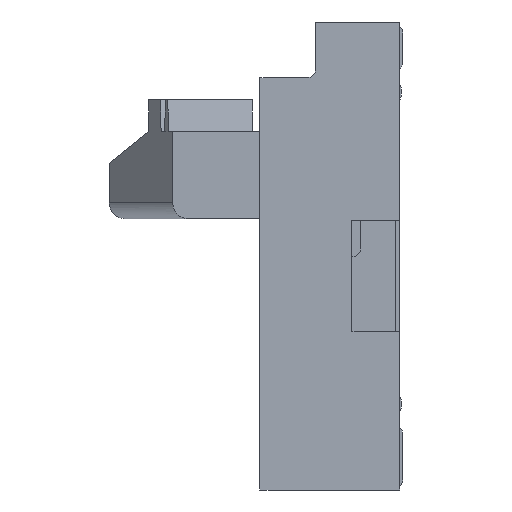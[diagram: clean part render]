
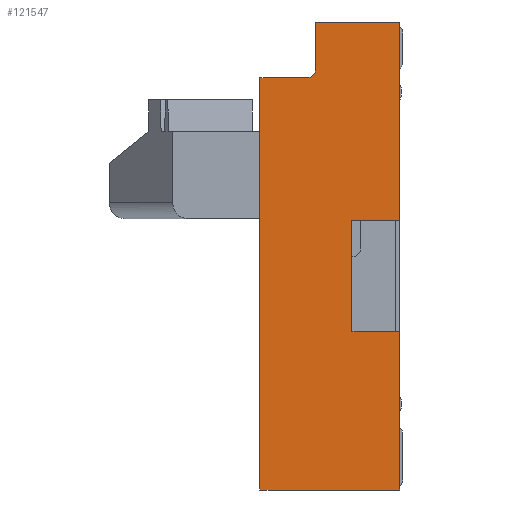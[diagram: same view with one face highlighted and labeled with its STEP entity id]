
A CAD part, left-side view. The second image highlights one B-rep face of the part: STEP entity #121547.
In plain terms, the highlighted planar face has unit normal (-1, 0, 0).
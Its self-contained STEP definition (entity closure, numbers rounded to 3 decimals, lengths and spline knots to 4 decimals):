
#18536 = AXIS2_PLACEMENT_3D ( 'NONE', #50274, #50278, #50282 ) ;
#38998 = CARTESIAN_POINT ( 'NONE',  ( -9.9, 0.9, -0.35 ) ) ;
#39001 = DIRECTION ( 'NONE',  ( 0., 1., 0. ) ) ;
#39095 = CARTESIAN_POINT ( 'NONE',  ( -9.9, -0.5636, -2.95 ) ) ;
#39104 = CARTESIAN_POINT ( 'NONE',  ( -9.9, 0.02, -1.95 ) ) ;
#39122 = DIRECTION ( 'NONE',  ( 0., 1., 0. ) ) ;
#39136 = DIRECTION ( 'NONE',  ( 0., 1., 0. ) ) ;
#39251 = CARTESIAN_POINT ( 'NONE',  ( -9.9, 0.02, -1.25 ) ) ;
#39254 = DIRECTION ( 'NONE',  ( 0., -1., 0. ) ) ;
#39256 = CARTESIAN_POINT ( 'NONE',  ( -9.9, 0.02, -2.85 ) ) ;
#39259 = DIRECTION ( 'NONE',  ( 0., 0., -1. ) ) ;
#39261 = CARTESIAN_POINT ( 'NONE',  ( -9.9, 0.9, 0. ) ) ;
#39263 = DIRECTION ( 'NONE',  ( 0., -1., 0. ) ) ;
#39265 = CARTESIAN_POINT ( 'NONE',  ( -9.9, 0.9, 0. ) ) ;
#39268 = DIRECTION ( 'NONE',  ( 0., 0., 1. ) ) ;
#39270 = CARTESIAN_POINT ( 'NONE',  ( -9.9, 0.02, -2.85 ) ) ;
#39272 = DIRECTION ( 'NONE',  ( 0., 0., -1. ) ) ;
#39274 = CARTESIAN_POINT ( 'NONE',  ( -9.9, 0.32, -1.25 ) ) ;
#39277 = DIRECTION ( 'NONE',  ( 0., 0., 1. ) ) ;
#50150 = CARTESIAN_POINT ( 'NONE',  ( -9.9, 0.55, 0. ) ) ;
#50194 = DIRECTION ( 'NONE',  ( 0., 0., -1. ) ) ;
#50274 = CARTESIAN_POINT ( 'NONE',  ( -9.9, 0.6, -0.3 ) ) ;
#50278 = DIRECTION ( 'NONE',  ( -1., 0., 0. ) ) ;
#50282 = DIRECTION ( 'NONE',  ( 0., 0., -1. ) ) ;
#52593 = PLANE ( 'NONE',  #97283 ) ;
#52602 = CARTESIAN_POINT ( 'NONE',  ( -9.9, 0., 0. ) ) ;
#52603 = DIRECTION ( 'NONE',  ( -1., 0., 0. ) ) ;
#52604 = DIRECTION ( 'NONE',  ( 0., 0., -1. ) ) ;
#54120 = CARTESIAN_POINT ( 'NONE',  ( -9.9, 0.9, -0.35 ) ) ;
#54121 = CARTESIAN_POINT ( 'NONE',  ( -9.9, 0.32, -1.95 ) ) ;
#54131 = CARTESIAN_POINT ( 'NONE',  ( -9.9, 0.02, -1.95 ) ) ;
#54137 = CARTESIAN_POINT ( 'NONE',  ( -9.9, 0.9, -2.95 ) ) ;
#54139 = CARTESIAN_POINT ( 'NONE',  ( -9.9, 0.02, -2.95 ) ) ;
#54149 = CARTESIAN_POINT ( 'NONE',  ( -9.9, 0.32, -1.25 ) ) ;
#54151 = CARTESIAN_POINT ( 'NONE',  ( -9.9, 0.02, -1.25 ) ) ;
#54155 = CARTESIAN_POINT ( 'NONE',  ( -9.9, 0.02, 0. ) ) ;
#60390 = VERTEX_POINT ( 'NONE', #135576 ) ;
#60397 = VERTEX_POINT ( 'NONE', #135574 ) ;
#60411 = VERTEX_POINT ( 'NONE', #152584 ) ;
#77573 = EDGE_CURVE ( 'NONE', #60397, #60390, #131192, .T. ) ;
#77583 = EDGE_CURVE ( 'NONE', #60411, #60390, #131222, .T. ) ;
#77999 = EDGE_CURVE ( 'NONE', #60411, #138850, #132772, .T. ) ;
#78026 = EDGE_CURVE ( 'NONE', #138873, #138875, #132906, .T. ) ;
#78029 = EDGE_CURVE ( 'NONE', #138867, #138845, #132922, .T. ) ;
#78055 = EDGE_CURVE ( 'NONE', #138895, #138898, #133082, .T. ) ;
#78056 = EDGE_CURVE ( 'NONE', #138903, #138898, #133087, .T. ) ;
#78057 = EDGE_CURVE ( 'NONE', #60397, #138903, #133093, .T. ) ;
#78058 = EDGE_CURVE ( 'NONE', #138875, #138850, #133098, .T. ) ;
#78059 = EDGE_CURVE ( 'NONE', #138867, #138873, #133104, .T. ) ;
#78060 = EDGE_CURVE ( 'NONE', #138845, #138895, #133110, .T. ) ;
#97283 = AXIS2_PLACEMENT_3D ( 'NONE', #52602, #52603, #52604 ) ;
#121547 = ADVANCED_FACE ( 'NONE', ( #169548 ), #52593, .T. ) ;
#131192 = LINE ( 'NONE', #50150, #131206 ) ;
#131206 = VECTOR ( 'NONE', #50194, 1000. ) ;
#131222 = CIRCLE ( 'NONE', #18536, 0.05 ) ;
#132772 = LINE ( 'NONE', #38998, #132781 ) ;
#132781 = VECTOR ( 'NONE', #39001, 1000. ) ;
#132906 = LINE ( 'NONE', #39095, #132932 ) ;
#132922 = LINE ( 'NONE', #39104, #132947 ) ;
#132932 = VECTOR ( 'NONE', #39122, 1000. ) ;
#132947 = VECTOR ( 'NONE', #39136, 1000. ) ;
#133082 = LINE ( 'NONE', #39251, #133090 ) ;
#133087 = LINE ( 'NONE', #39256, #133096 ) ;
#133090 = VECTOR ( 'NONE', #39254, 1000. ) ;
#133093 = LINE ( 'NONE', #39261, #133101 ) ;
#133096 = VECTOR ( 'NONE', #39259, 1000. ) ;
#133098 = LINE ( 'NONE', #39265, #133107 ) ;
#133101 = VECTOR ( 'NONE', #39263, 1000. ) ;
#133104 = LINE ( 'NONE', #39270, #133112 ) ;
#133107 = VECTOR ( 'NONE', #39268, 1000. ) ;
#133110 = LINE ( 'NONE', #39274, #133117 ) ;
#133112 = VECTOR ( 'NONE', #39272, 1000. ) ;
#133117 = VECTOR ( 'NONE', #39277, 1000. ) ;
#135574 = CARTESIAN_POINT ( 'NONE',  ( -9.9, 0.55, 0. ) ) ;
#135576 = CARTESIAN_POINT ( 'NONE',  ( -9.9, 0.55, -0.3 ) ) ;
#138845 = VERTEX_POINT ( 'NONE', #54121 ) ;
#138850 = VERTEX_POINT ( 'NONE', #54120 ) ;
#138867 = VERTEX_POINT ( 'NONE', #54131 ) ;
#138873 = VERTEX_POINT ( 'NONE', #54139 ) ;
#138875 = VERTEX_POINT ( 'NONE', #54137 ) ;
#138895 = VERTEX_POINT ( 'NONE', #54149 ) ;
#138898 = VERTEX_POINT ( 'NONE', #54151 ) ;
#138903 = VERTEX_POINT ( 'NONE', #54155 ) ;
#146695 = ORIENTED_EDGE ( 'NONE', *, *, #78055, .T. ) ;
#152544 = ORIENTED_EDGE ( 'NONE', *, *, #78056, .F. ) ;
#152545 = ORIENTED_EDGE ( 'NONE', *, *, #78057, .F. ) ;
#152546 = ORIENTED_EDGE ( 'NONE', *, *, #77573, .T. ) ;
#152547 = ORIENTED_EDGE ( 'NONE', *, *, #77583, .F. ) ;
#152548 = ORIENTED_EDGE ( 'NONE', *, *, #77999, .T. ) ;
#152549 = ORIENTED_EDGE ( 'NONE', *, *, #78058, .F. ) ;
#152550 = ORIENTED_EDGE ( 'NONE', *, *, #78026, .F. ) ;
#152551 = ORIENTED_EDGE ( 'NONE', *, *, #78059, .F. ) ;
#152552 = ORIENTED_EDGE ( 'NONE', *, *, #78029, .T. ) ;
#152553 = ORIENTED_EDGE ( 'NONE', *, *, #78060, .T. ) ;
#152584 = CARTESIAN_POINT ( 'NONE',  ( -9.9, 0.6, -0.35 ) ) ;
#169548 = FACE_OUTER_BOUND ( 'NONE', #179331, .T. ) ;
#179331 = EDGE_LOOP ( 'NONE', ( #146695, #152544, #152545, #152546, #152547, #152548, #152549, #152550, #152551, #152552, #152553 ) ) ;
